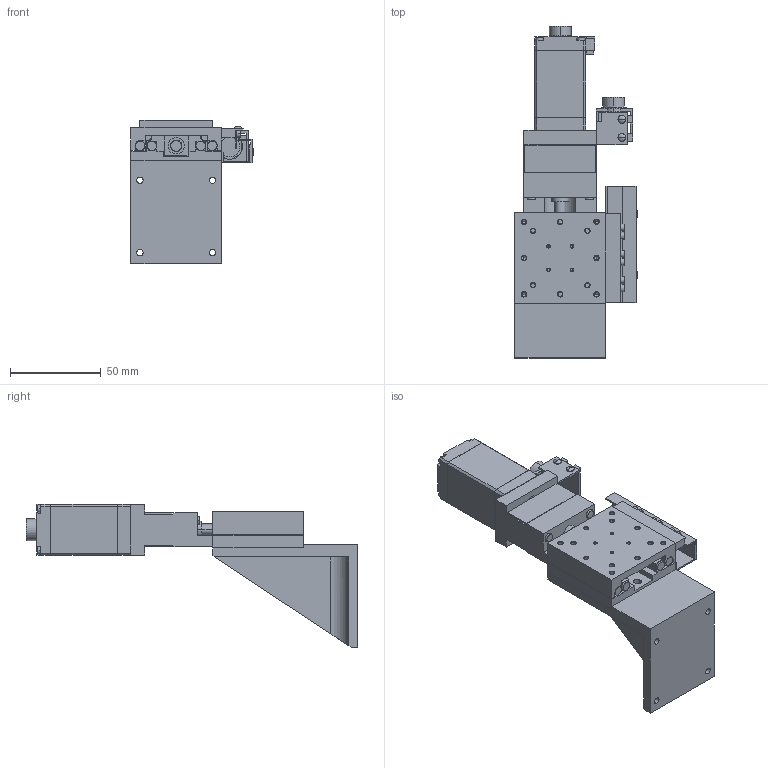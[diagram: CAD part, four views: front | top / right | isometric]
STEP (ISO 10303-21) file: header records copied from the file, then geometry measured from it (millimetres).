
FILE_DESCRIPTION(('STEP AP203'),'1');
FILE_NAME('C:/3D-Trans/3D_PZG513M-R□-D+240125.step','2024-03-14T05:01:41',(' '),(' '),'Spatial InterOp 3D',' ',' ');
FILE_SCHEMA(('CONFIG_CONTROL_DESIGN'));
Length unit declared in the file: millimetre
Products named in the file (7): 1; 2; 3; 4; 5; 6; 7
Bounding box: 67.4 x 183 x 79 mm (x, y, z)
Volume: 169915.2 mm3; surface area: 66461.7 mm2
Topology: 7 solids, 7 shells, 724 faces, 1878 edges, 1192 vertices
Faces by surface type: plane 412, cylinder 232, cone 76, sphere 4
Entity records: 22356 total; most frequent: DIRECTION 3914, CARTESIAN_POINT 3809, ORIENTED_EDGE 3708, EDGE_CURVE 1854, AXIS2_PLACEMENT_3D 1337, LINE 1240, VECTOR 1240, VERTEX_POINT 1192
